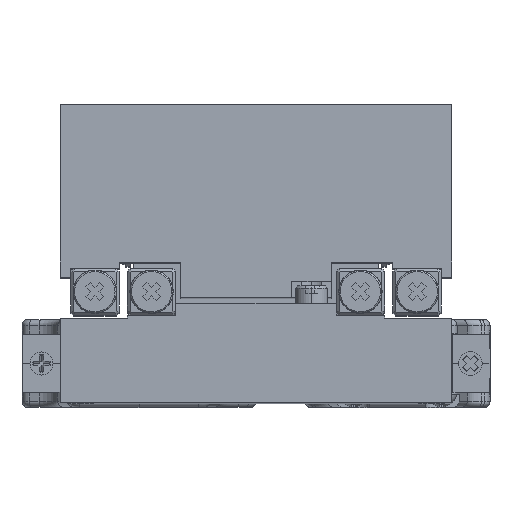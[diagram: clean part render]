
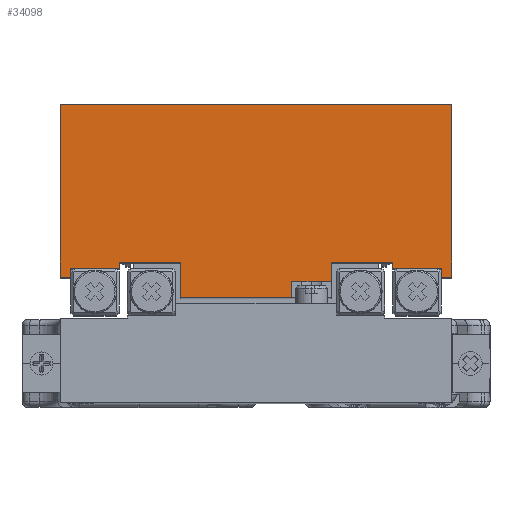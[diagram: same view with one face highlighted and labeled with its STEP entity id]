
A CAD part, top view. The second image highlights one B-rep face of the part: STEP entity #34098.
In plain terms, the highlighted planar face has unit normal (0, 0, 1).
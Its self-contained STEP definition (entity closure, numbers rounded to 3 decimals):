
#401 = AXIS2_PLACEMENT_3D ( 'NONE', #25648, #18559, #15411 ) ;
#402 = CARTESIAN_POINT ( 'NONE',  ( -23.4, -1., 50. ) ) ;
#891 = DIRECTION ( 'NONE',  ( 1., 0., 0. ) ) ;
#1463 = LINE ( 'NONE', #2222, #18109 ) ;
#1558 = ORIENTED_EDGE ( 'NONE', *, *, #12509, .T. ) ;
#1628 = ORIENTED_EDGE ( 'NONE', *, *, #15783, .T. ) ;
#2222 = CARTESIAN_POINT ( 'NONE',  ( -33.5, 0., 50. ) ) ;
#2229 = ORIENTED_EDGE ( 'NONE', *, *, #3834, .T. ) ;
#2454 = EDGE_CURVE ( 'NONE', #42627, #34196, #28586, .T. ) ;
#2626 = LINE ( 'NONE', #17497, #19735 ) ;
#2832 = CARTESIAN_POINT ( 'NONE',  ( 33.5, 27., 50. ) ) ;
#3016 = CARTESIAN_POINT ( 'NONE',  ( 6.1, -6., 50. ) ) ;
#3716 = EDGE_CURVE ( 'NONE', #38543, #5802, #1463, .T. ) ;
#3834 = EDGE_CURVE ( 'NONE', #5802, #16464, #7597, .T. ) ;
#4401 = VECTOR ( 'NONE', #26783, 1000. ) ;
#4420 = VECTOR ( 'NONE', #26630, 1000. ) ;
#4432 = EDGE_LOOP ( 'NONE', ( #7473, #38852, #30471, #17385, #4476, #4941, #1628, #36172, #6916, #23514, #42123, #26028, #1558, #23156, #23912, #9979, #2229, #21084 ) ) ;
#4476 = ORIENTED_EDGE ( 'NONE', *, *, #20242, .T. ) ;
#4573 = CARTESIAN_POINT ( 'NONE',  ( -23.4, 0., 50. ) ) ;
#4929 = VERTEX_POINT ( 'NONE', #2832 ) ;
#4941 = ORIENTED_EDGE ( 'NONE', *, *, #2454, .T. ) ;
#5802 = VERTEX_POINT ( 'NONE', #5920 ) ;
#5920 = CARTESIAN_POINT ( 'NONE',  ( -12.9, 0., 50. ) ) ;
#6020 = CARTESIAN_POINT ( 'NONE',  ( -31.7, -1., 50. ) ) ;
#6564 = VECTOR ( 'NONE', #35881, 1000. ) ;
#6729 = VECTOR ( 'NONE', #16467, 1000. ) ;
#6910 = CARTESIAN_POINT ( 'NONE',  ( -23.4, 0., 50. ) ) ;
#6916 = ORIENTED_EDGE ( 'NONE', *, *, #12170, .F. ) ;
#7473 = ORIENTED_EDGE ( 'NONE', *, *, #21956, .F. ) ;
#7482 = CARTESIAN_POINT ( 'NONE',  ( -31.7, -2.5, 50. ) ) ;
#7597 = LINE ( 'NONE', #38975, #6564 ) ;
#7731 = VECTOR ( 'NONE', #39881, 1000. ) ;
#8262 = DIRECTION ( 'NONE',  ( 0., -1., 0. ) ) ;
#8301 = CARTESIAN_POINT ( 'NONE',  ( 23.4, 0., 50. ) ) ;
#8766 = LINE ( 'NONE', #29792, #7731 ) ;
#9979 = ORIENTED_EDGE ( 'NONE', *, *, #3716, .T. ) ;
#10274 = CARTESIAN_POINT ( 'NONE',  ( -33.5, -2.5, 50. ) ) ;
#10312 = CARTESIAN_POINT ( 'NONE',  ( 23.4, -1., 50. ) ) ;
#10859 = VERTEX_POINT ( 'NONE', #24959 ) ;
#10972 = CARTESIAN_POINT ( 'NONE',  ( -33.5, -2.5, 50. ) ) ;
#11350 = CARTESIAN_POINT ( 'NONE',  ( 33.5, -2.5, 50. ) ) ;
#11923 = CARTESIAN_POINT ( 'NONE',  ( 6.1, 60.449, 50. ) ) ;
#12170 = EDGE_CURVE ( 'NONE', #4929, #22112, #16653, .T. ) ;
#12509 = EDGE_CURVE ( 'NONE', #20799, #37869, #35292, .T. ) ;
#13169 = EDGE_CURVE ( 'NONE', #40282, #19719, #30550, .T. ) ;
#13274 = CARTESIAN_POINT ( 'NONE',  ( -31.7, -1., 50. ) ) ;
#13498 = EDGE_CURVE ( 'NONE', #34845, #21818, #28771, .T. ) ;
#15228 = VERTEX_POINT ( 'NONE', #37813 ) ;
#15411 = DIRECTION ( 'NONE',  ( -1., 0., 0. ) ) ;
#15783 = EDGE_CURVE ( 'NONE', #34196, #10859, #2626, .T. ) ;
#16070 = VECTOR ( 'NONE', #24967, 1000. ) ;
#16138 = FACE_OUTER_BOUND ( 'NONE', #4432, .T. ) ;
#16252 = DIRECTION ( 'NONE',  ( 1., 0., 0. ) ) ;
#16464 = VERTEX_POINT ( 'NONE', #42588 ) ;
#16467 = DIRECTION ( 'NONE',  ( 0., -1., 0. ) ) ;
#16624 = VERTEX_POINT ( 'NONE', #402 ) ;
#16652 = DIRECTION ( 'NONE',  ( 0., -1., 0. ) ) ;
#16653 = LINE ( 'NONE', #19652, #6729 ) ;
#16736 = CARTESIAN_POINT ( 'NONE',  ( 6.1, -3.25, 50. ) ) ;
#17385 = ORIENTED_EDGE ( 'NONE', *, *, #35065, .T. ) ;
#17497 = CARTESIAN_POINT ( 'NONE',  ( 31.7, -1., 50. ) ) ;
#17673 = LINE ( 'NONE', #24047, #30073 ) ;
#18109 = VECTOR ( 'NONE', #41720, 1000. ) ;
#18465 = VECTOR ( 'NONE', #33537, 1000. ) ;
#18559 = DIRECTION ( 'NONE',  ( 0., 0., -1. ) ) ;
#18627 = CARTESIAN_POINT ( 'NONE',  ( -33.5, 27., 50. ) ) ;
#19116 = LINE ( 'NONE', #38362, #27890 ) ;
#19652 = CARTESIAN_POINT ( 'NONE',  ( 33.5, 27., 50. ) ) ;
#19719 = VERTEX_POINT ( 'NONE', #10274 ) ;
#19735 = VECTOR ( 'NONE', #37532, 1000. ) ;
#20242 = EDGE_CURVE ( 'NONE', #22770, #42627, #35912, .T. ) ;
#20392 = EDGE_CURVE ( 'NONE', #19719, #20799, #29072, .T. ) ;
#20799 = VERTEX_POINT ( 'NONE', #7482 ) ;
#21027 = VECTOR ( 'NONE', #891, 1000. ) ;
#21084 = ORIENTED_EDGE ( 'NONE', *, *, #34507, .T. ) ;
#21190 = CARTESIAN_POINT ( 'NONE',  ( -33.5, 27., 50. ) ) ;
#21818 = VERTEX_POINT ( 'NONE', #16736 ) ;
#21956 = EDGE_CURVE ( 'NONE', #21818, #32556, #39832, .T. ) ;
#22112 = VERTEX_POINT ( 'NONE', #39223 ) ;
#22770 = VERTEX_POINT ( 'NONE', #8301 ) ;
#22830 = EDGE_CURVE ( 'NONE', #16624, #38543, #29807, .T. ) ;
#23156 = ORIENTED_EDGE ( 'NONE', *, *, #35307, .T. ) ;
#23312 = CARTESIAN_POINT ( 'NONE',  ( 23.4, 0., 50. ) ) ;
#23514 = ORIENTED_EDGE ( 'NONE', *, *, #26569, .F. ) ;
#23515 = EDGE_CURVE ( 'NONE', #10859, #22112, #39195, .T. ) ;
#23532 = CARTESIAN_POINT ( 'NONE',  ( 6.1, -3.25, 50. ) ) ;
#23912 = ORIENTED_EDGE ( 'NONE', *, *, #22830, .T. ) ;
#24047 = CARTESIAN_POINT ( 'NONE',  ( -12.9, -6., 50. ) ) ;
#24959 = CARTESIAN_POINT ( 'NONE',  ( 31.7, -2.5, 50. ) ) ;
#24967 = DIRECTION ( 'NONE',  ( 0., -1., 0. ) ) ;
#25648 = CARTESIAN_POINT ( 'NONE',  ( -33.5, 27., 50. ) ) ;
#25948 = VECTOR ( 'NONE', #26596, 1000. ) ;
#26028 = ORIENTED_EDGE ( 'NONE', *, *, #20392, .T. ) ;
#26210 = CARTESIAN_POINT ( 'NONE',  ( 31.7, -1., 50. ) ) ;
#26569 = EDGE_CURVE ( 'NONE', #40282, #4929, #19116, .T. ) ;
#26596 = DIRECTION ( 'NONE',  ( 0., 1., 0. ) ) ;
#26630 = DIRECTION ( 'NONE',  ( 0., 1., 0. ) ) ;
#26783 = DIRECTION ( 'NONE',  ( 0., 1., 0. ) ) ;
#27697 = CARTESIAN_POINT ( 'NONE',  ( -33.5, 0., 50. ) ) ;
#27890 = VECTOR ( 'NONE', #16252, 1000. ) ;
#28586 = LINE ( 'NONE', #41093, #31195 ) ;
#28615 = EDGE_CURVE ( 'NONE', #34845, #15228, #42333, .T. ) ;
#28771 = LINE ( 'NONE', #23532, #18465 ) ;
#29072 = LINE ( 'NONE', #10972, #34830 ) ;
#29675 = CARTESIAN_POINT ( 'NONE',  ( 12.9, -6., 50. ) ) ;
#29792 = CARTESIAN_POINT ( 'NONE',  ( -33.5, -1., 50. ) ) ;
#29807 = LINE ( 'NONE', #6910, #4401 ) ;
#29812 = LINE ( 'NONE', #27697, #21027 ) ;
#30073 = VECTOR ( 'NONE', #33912, 1000. ) ;
#30471 = ORIENTED_EDGE ( 'NONE', *, *, #28615, .T. ) ;
#30550 = LINE ( 'NONE', #21190, #16070 ) ;
#31195 = VECTOR ( 'NONE', #40548, 1000. ) ;
#32556 = VERTEX_POINT ( 'NONE', #3016 ) ;
#33537 = DIRECTION ( 'NONE',  ( -1., 0., 0. ) ) ;
#33912 = DIRECTION ( 'NONE',  ( 1., 0., 0. ) ) ;
#34098 = ADVANCED_FACE ( 'NONE', ( #16138 ), #42197, .F. ) ;
#34196 = VERTEX_POINT ( 'NONE', #26210 ) ;
#34507 = EDGE_CURVE ( 'NONE', #16464, #32556, #17673, .T. ) ;
#34830 = VECTOR ( 'NONE', #40603, 1000. ) ;
#34839 = DIRECTION ( 'NONE',  ( 1., 0., 0. ) ) ;
#34845 = VERTEX_POINT ( 'NONE', #39979 ) ;
#35065 = EDGE_CURVE ( 'NONE', #15228, #22770, #29812, .T. ) ;
#35292 = LINE ( 'NONE', #6020, #25948 ) ;
#35307 = EDGE_CURVE ( 'NONE', #37869, #16624, #8766, .T. ) ;
#35881 = DIRECTION ( 'NONE',  ( 0., -1., 0. ) ) ;
#35912 = LINE ( 'NONE', #23312, #36418 ) ;
#36172 = ORIENTED_EDGE ( 'NONE', *, *, #23515, .T. ) ;
#36205 = VECTOR ( 'NONE', #8262, 1000. ) ;
#36418 = VECTOR ( 'NONE', #16652, 1000. ) ;
#37532 = DIRECTION ( 'NONE',  ( 0., -1., 0. ) ) ;
#37813 = CARTESIAN_POINT ( 'NONE',  ( 12.9, 0., 50. ) ) ;
#37869 = VERTEX_POINT ( 'NONE', #13274 ) ;
#38362 = CARTESIAN_POINT ( 'NONE',  ( -33.5, 27., 50. ) ) ;
#38543 = VERTEX_POINT ( 'NONE', #4573 ) ;
#38852 = ORIENTED_EDGE ( 'NONE', *, *, #13498, .F. ) ;
#38975 = CARTESIAN_POINT ( 'NONE',  ( -12.9, 0., 50. ) ) ;
#39195 = LINE ( 'NONE', #11350, #39664 ) ;
#39223 = CARTESIAN_POINT ( 'NONE',  ( 33.5, -2.5, 50. ) ) ;
#39664 = VECTOR ( 'NONE', #34839, 1000. ) ;
#39832 = LINE ( 'NONE', #11923, #36205 ) ;
#39881 = DIRECTION ( 'NONE',  ( 1., 0., 0. ) ) ;
#39979 = CARTESIAN_POINT ( 'NONE',  ( 12.9, -3.25, 50. ) ) ;
#40282 = VERTEX_POINT ( 'NONE', #18627 ) ;
#40548 = DIRECTION ( 'NONE',  ( 1., 0., 0. ) ) ;
#40603 = DIRECTION ( 'NONE',  ( 1., 0., 0. ) ) ;
#41093 = CARTESIAN_POINT ( 'NONE',  ( 33.5, -1., 50. ) ) ;
#41720 = DIRECTION ( 'NONE',  ( 1., 0., 0. ) ) ;
#42123 = ORIENTED_EDGE ( 'NONE', *, *, #13169, .T. ) ;
#42197 = PLANE ( 'NONE',  #401 ) ;
#42333 = LINE ( 'NONE', #29675, #4420 ) ;
#42588 = CARTESIAN_POINT ( 'NONE',  ( -12.9, -6., 50. ) ) ;
#42627 = VERTEX_POINT ( 'NONE', #10312 ) ;
